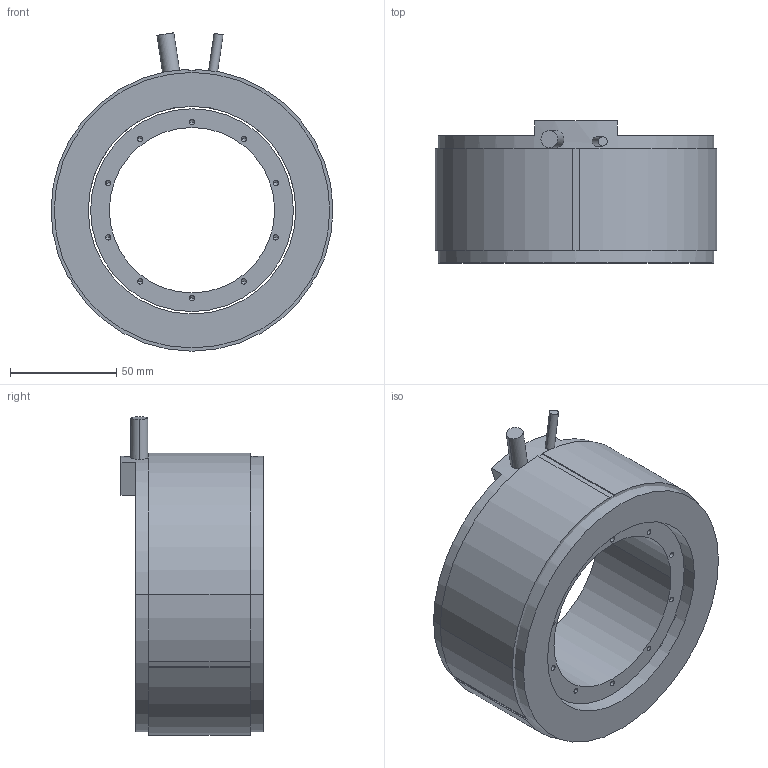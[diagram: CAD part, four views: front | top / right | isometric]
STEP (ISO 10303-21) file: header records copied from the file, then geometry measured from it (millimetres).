
FILE_DESCRIPTION (( 'STEP AP203' ), '1' );
FILE_NAME ('TMX133-60 3D.STEP', '2022-11-23T02:20:24', ( '' ), ( '' ), 'SwSTEP 2.0', 'SolidWorks 2021', '' );
FILE_SCHEMA (( 'CONFIG_CONTROL_DESIGN' ));
Length unit declared in the file: millimetre
Products named in the file (3): TM133-60 3D; TMX133-60 3D; TMX133-60 KIT 3D
Assembly tree (2 placements, depth 2):
  TMX133-60 3D
    TM133-60 3D
    TMX133-60 KIT 3D
Bounding box: 133 x 67 x 150.15 mm (x, y, z)
Volume: 631630.5 mm3; surface area: 166417.3 mm2
Topology: 3 solids, 3 shells, 387 faces, 1100 edges, 700 vertices
Faces by surface type: plane 217, cylinder 130, cone 40
Entity records: 12757 total; most frequent: CARTESIAN_POINT 2276, ORIENTED_EDGE 2120, DIRECTION 2100, EDGE_CURVE 1060, LINE 796, VECTOR 796, VERTEX_POINT 700, AXIS2_PLACEMENT_3D 652
